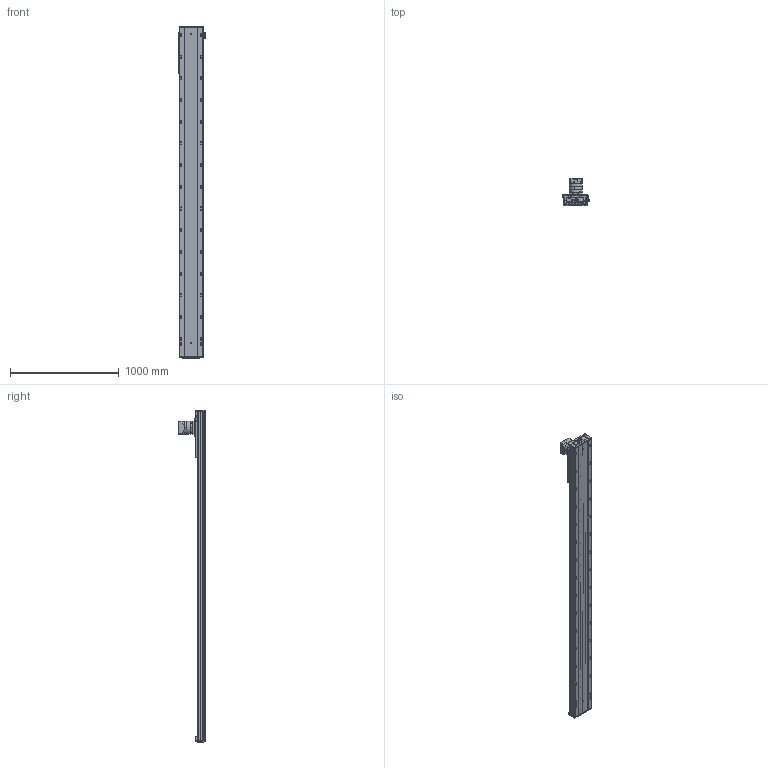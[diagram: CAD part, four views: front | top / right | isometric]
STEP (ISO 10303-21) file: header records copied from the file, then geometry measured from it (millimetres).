
FILE_DESCRIPTION (( 'STEP AP203' ), '1' );
FILE_NAME ('RY220-C-300-UK.SLDASM_2550.step', '2022-08-01T06:00:15', ( '' ), ( '' ), 'SwSTEP 2.0', 'SolidWorks 2016', '' );
FILE_SCHEMA (( 'CONFIG_CONTROL_DESIGN' ));
Length unit declared in the file: millimetre
Products named in the file (10): PF115L1-S2-22-58-110-145-M8; RY220喘沭俋离覜茼え; RY220-C-300-UK.SLDASM_2550; 覜茼ん674; RY220-齿条模组电机安装板; 滅袉蝶輸ㄗG412隅秶ㄘ; RY220喘沭綴裔啣; RY220喘沭賑輸; RY140直线电机感应器674光电安装座; RY220菁釱MK-300_2550
Assembly tree (12 placements, depth 2):
  RY220-C-300-UK.SLDASM_2550
    RY220菁釱MK-300_2550
    RY220喘沭賑輸
    RY220-齿条模组电机安装板
    PF115L1-S2-22-58-110-145-M8
    RY220喘沭綴裔啣  x2
    滅袉蝶輸ㄗG412隅秶ㄘ  x2
    RY140直线电机感应器674光电安装座
    覜茼ん674  x2
    RY220喘沭俋离覜茼え
Bounding box: 247 x 244.5 x 3059 mm (x, y, z)
Volume: 20732789.7 mm3; surface area: 4255767.1 mm2
Topology: 18 solids, 26 shells, 2342 faces, 6313 edges, 3945 vertices
Faces by surface type: cylinder 1139, plane 751, cone 290, bspline 162
Entity records: 74549 total; most frequent: CARTESIAN_POINT 20255, DIRECTION 11227, ORIENTED_EDGE 10946, EDGE_CURVE 5473, AXIS2_PLACEMENT_3D 4305, VERTEX_POINT 3571, EDGE_LOOP 2744, VECTOR 2617
